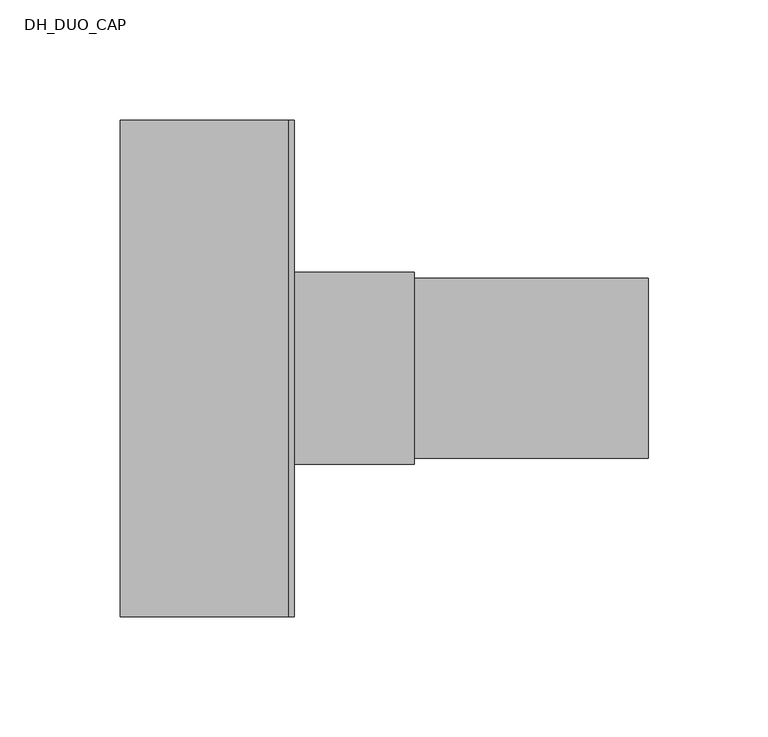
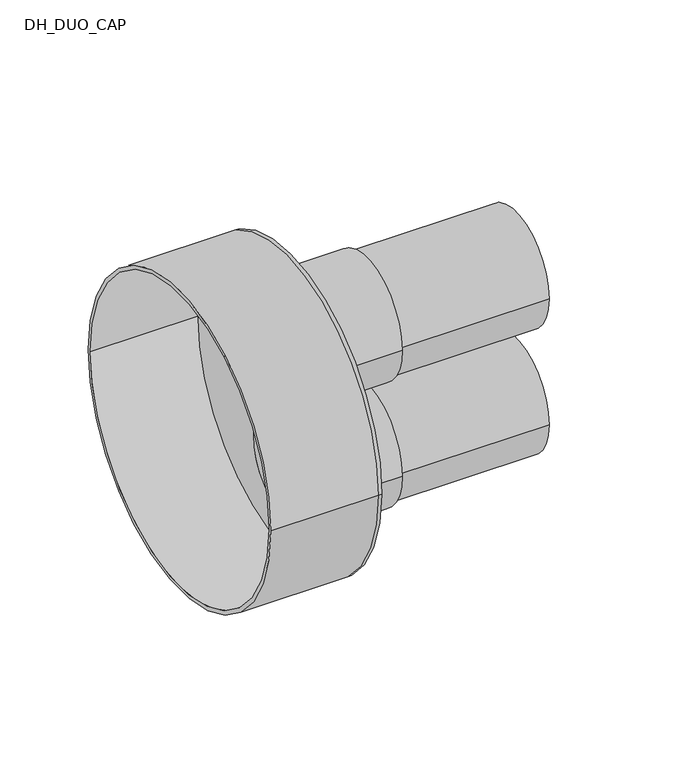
"""IFC4 building model written with IfcOpenShell, lengths in millimetres: pipe fitting geometry, DH_DUO_CAP : RAUTHERMEX DUO 11 Heating - Rubber Cap."""

from ifc_helpers import new_model, si_unit, point, frame, frame_2d, origin, place, context, project, spatial, polyline, circle_curve, trimmed, segment, composite_curve, outline, extrude, source, transform, mapped, element, save
from ifc_brep_helpers import plane_surface, cylinder_surface, revolved_surface, advanced_brep


def dh_duo_cap_d277d169(model_context):
    return source(origin(), model_context, "Body", "SolidModel", [
        extrude(outline(composite_curve([segment(trimmed(circle_curve(frame_2d((0.0, -43.5)), 37.5), [point((-37.5, -43.5))], [point((37.5, -43.5))], False, "CARTESIAN"), True, "CONTINUOUS"), segment(trimmed(circle_curve(frame_2d((0.0, -43.5)), 37.5), [point((37.5, -43.5))], [point((-37.5, -43.5))], False, "CARTESIAN"), True, "CONTINUOUS")], self_intersect=False), holes=[composite_curve([segment(trimmed(circle_curve(frame_2d((0.0, -43.5)), 30.7), [point((-30.7, -43.5))], [point((30.7, -43.5))], True, "CARTESIAN"), True, "CONTINUOUS"), segment(trimmed(circle_curve(frame_2d((0.0, -43.5)), 30.7), [point((30.7, -43.5))], [point((-30.7, -43.5))], True, "CARTESIAN"), True, "CONTINUOUS")], self_intersect=False)]), frame((0.0, 0.0, 0.0), z_axis=(1.0, 0.0, 0.0), x_axis=(0.0, 1.0, 0.0)), (0.0, 0.0, 1.0), 150.0),
        extrude(outline(composite_curve([segment(trimmed(circle_curve(frame_2d((0.0, 43.5)), 37.5), [point((-37.5, 43.5))], [point((37.5, 43.5))], False, "CARTESIAN"), True, "CONTINUOUS"), segment(trimmed(circle_curve(frame_2d((0.0, 43.5)), 37.5), [point((37.5, 43.5))], [point((-37.5, 43.5))], False, "CARTESIAN"), True, "CONTINUOUS")], self_intersect=False), holes=[composite_curve([segment(trimmed(circle_curve(frame_2d((0.0, 43.5)), 30.7), [point((-30.7, 43.5))], [point((30.7, 43.5))], True, "CARTESIAN"), True, "CONTINUOUS"), segment(trimmed(circle_curve(frame_2d((0.0, 43.5)), 30.7), [point((30.7, 43.5))], [point((-30.7, 43.5))], True, "CARTESIAN"), True, "CONTINUOUS")], self_intersect=False)]), frame((0.0, 0.0, 0.0), z_axis=(1.0, 0.0, 0.0), x_axis=(0.0, 1.0, 0.0)), (0.0, 0.0, 1.0), 150.0),
        advanced_brep(
        [(-70.0, -103.5, 0.0), (-70.0, 103.5, 0.0), (-70.0, -101.0, 0.0), (-70.0, 101.0, 0.0), (0.0, -101.0, 0.0), (0.0, 101.0, 0.0), (0.0, -103.5, 0.0), (0.0, 103.5, 0.0), (0.0, 37.5, 43.5), (0.0, -37.5, 43.5), (0.0, 37.5, -43.5), (0.0, -37.5, -43.5), (2.5, -103.5, 0.0), (2.5, 103.5, 0.0), (2.5, -37.5, 43.5), (2.5, 37.5, 43.5), (2.5, -37.5, -43.5), (2.5, 37.5, -43.5)],
        [
            (0, 1, circle_curve(frame((-70.0, 0.0, 0.0), z_axis=(-1.0, 0.0, 0.0), x_axis=(0.0, 1.0, 0.0)), 103.5)),
            (1, 0, circle_curve(frame((-70.0, 0.0, 0.0), z_axis=(-1.0, 0.0, 0.0), x_axis=(0.0, 1.0, 0.0)), 103.5)),
            (2, 3, circle_curve(frame((-70.0, 0.0, 0.0), z_axis=(1.0, 0.0, 0.0), x_axis=(0.0, 1.0, 0.0)), 101.0)),
            (3, 2, circle_curve(frame((-70.0, 0.0, 0.0), z_axis=(1.0, 0.0, 0.0), x_axis=(0.0, 1.0, 0.0)), 101.0)),
            (2, 4),
            (4, 5, circle_curve(frame((0.0, 0.0, 0.0), z_axis=(1.0, 0.0, 0.0), x_axis=(0.0, 1.0, 0.0)), 101.0)),
            (5, 3),
            (5, 4, circle_curve(frame((0.0, 0.0, 0.0), z_axis=(1.0, 0.0, 0.0), x_axis=(0.0, 1.0, 0.0)), 101.0)),
            (0, 6),
            (6, 7, circle_curve(frame((0.0, 0.0, 0.0), z_axis=(-1.0, 0.0, 0.0), x_axis=(0.0, 1.0, 0.0)), 103.5)),
            (7, 1),
            (7, 6, circle_curve(frame((0.0, 0.0, 0.0), z_axis=(-1.0, 0.0, 0.0), x_axis=(0.0, 1.0, 0.0)), 103.5)),
            (8, 9, circle_curve(frame((0.0, 0.0, 43.5), z_axis=(1.0, 0.0, 0.0), x_axis=(0.0, 1.0, 0.0)), 37.5)),
            (9, 8, circle_curve(frame((0.0, 0.0, 43.5), z_axis=(1.0, 0.0, 0.0), x_axis=(0.0, 1.0, 0.0)), 37.5)),
            (10, 11, circle_curve(frame((0.0, 0.0, -43.5), z_axis=(1.0, 0.0, 0.0), x_axis=(0.0, 1.0, 0.0)), 37.5)),
            (11, 10, circle_curve(frame((0.0, 0.0, -43.5), z_axis=(1.0, 0.0, 0.0), x_axis=(0.0, 1.0, 0.0)), 37.5)),
            (12, 13, circle_curve(frame((2.5, 0.0, 0.0), z_axis=(1.0, 0.0, 0.0), x_axis=(0.0, 1.0, 0.0)), 103.5)),
            (13, 12, circle_curve(frame((2.5, 0.0, 0.0), z_axis=(1.0, 0.0, 0.0), x_axis=(0.0, 1.0, 0.0)), 103.5)),
            (14, 15, circle_curve(frame((2.5, 0.0, 43.5), z_axis=(-1.0, 0.0, 0.0), x_axis=(0.0, 1.0, 0.0)), 37.5)),
            (15, 14, circle_curve(frame((2.5, 0.0, 43.5), z_axis=(-1.0, 0.0, 0.0), x_axis=(0.0, 1.0, 0.0)), 37.5)),
            (16, 17, circle_curve(frame((2.5, 0.0, -43.5), z_axis=(-1.0, 0.0, 0.0), x_axis=(0.0, 1.0, 0.0)), 37.5)),
            (17, 16, circle_curve(frame((2.5, 0.0, -43.5), z_axis=(-1.0, 0.0, 0.0), x_axis=(0.0, 1.0, 0.0)), 37.5)),
            (13, 7),
            (6, 12),
            (8, 15),
            (14, 9),
            (10, 17),
            (16, 11),
        ],
        [
            plane_surface(frame((-70.0, 0.0, 0.0), z_axis=(-1.0, 0.0, 0.0), x_axis=(0.0, 0.0, 1.0))),
            revolved_surface(polyline([(0.0, 101.0, 0.0), (-70.0, 101.0, 0.0)]), (-70.0, 0.0, 0.0), (1.0, 0.0, 0.0)),
            cylinder_surface(frame((-70.0, 0.0, 0.0), z_axis=(-1.0, 0.0, 0.0), x_axis=(0.0, 1.0, 0.0)), 103.5),
            plane_surface(frame((0.0, 0.0, 0.0), z_axis=(-1.0, 0.0, 0.0), x_axis=(0.0, 0.0, 1.0))),
            plane_surface(frame((2.5, 0.0, 0.0), z_axis=(1.0, 0.0, 0.0), x_axis=(0.0, 0.0, 1.0))),
            cylinder_surface(frame((0.0, 0.0, 0.0), z_axis=(-1.0, 0.0, 0.0), x_axis=(0.0, 1.0, 0.0)), 103.5),
            revolved_surface(polyline([(0.0, 37.5, 43.5), (2.5, 37.5, 43.5)]), (0.0, 0.0, 43.5), (-1.0, 0.0, 0.0)),
            revolved_surface(polyline([(0.0, 37.5, -43.5), (2.5, 37.5, -43.5)]), (0.0, 0.0, -43.5), (-1.0, 0.0, 0.0)),
        ],
        [
            (0, [[1, 2], [3, 4]]),
            (1, [[-3, 5, 6, 7]]),
            (1, [[-4, -7, 8, -5]]),
            (2, [[-1, 9, 10, 11]]),
            (2, [[-2, -11, 12, -9]]),
            (3, [[-6, -8], [13, 14], [15, 16]]),
            (4, [[17, 18], [19, 20], [21, 22]]),
            (5, [[-18, 23, -10, 24]]),
            (5, [[-17, -24, -12, -23]]),
            (6, [[25, -19, 26, -13]]),
            (6, [[-25, -14, -26, -20]]),
            (7, [[27, -21, 28, -15]]),
            (7, [[-27, -16, -28, -22]]),
        ],
    ),
        extrude(outline(composite_curve([segment(trimmed(circle_curve(frame_2d((0.0, -43.5)), 40.0), [point((-40.0, -43.5))], [point((40.0, -43.5))], False, "CARTESIAN"), True, "CONTINUOUS"), segment(trimmed(circle_curve(frame_2d((0.0, -43.5)), 40.0), [point((40.0, -43.5))], [point((-40.0, -43.5))], False, "CARTESIAN"), True, "CONTINUOUS")], self_intersect=False), holes=[composite_curve([segment(trimmed(circle_curve(frame_2d((0.0, -43.5)), 37.5), [point((-37.5, -43.5))], [point((37.5, -43.5))], True, "CARTESIAN"), True, "CONTINUOUS"), segment(trimmed(circle_curve(frame_2d((0.0, -43.5)), 37.5), [point((37.5, -43.5))], [point((-37.5, -43.5))], True, "CARTESIAN"), True, "CONTINUOUS")], self_intersect=False)]), frame((2.5, 0.0, 0.0), z_axis=(1.0, 0.0, 0.0), x_axis=(0.0, 1.0, 0.0)), (0.0, 0.0, 1.0), 50.0),
        extrude(outline(composite_curve([segment(trimmed(circle_curve(frame_2d((0.0, 43.5)), 40.0), [point((-40.0, 43.5))], [point((40.0, 43.5))], False, "CARTESIAN"), True, "CONTINUOUS"), segment(trimmed(circle_curve(frame_2d((0.0, 43.5)), 40.0), [point((40.0, 43.5))], [point((-40.0, 43.5))], False, "CARTESIAN"), True, "CONTINUOUS")], self_intersect=False), holes=[composite_curve([segment(trimmed(circle_curve(frame_2d((0.0, 43.5)), 37.5), [point((-37.5, 43.5))], [point((37.5, 43.5))], True, "CARTESIAN"), True, "CONTINUOUS"), segment(trimmed(circle_curve(frame_2d((0.0, 43.5)), 37.5), [point((37.5, 43.5))], [point((-37.5, 43.5))], True, "CARTESIAN"), True, "CONTINUOUS")], self_intersect=False)]), frame((2.5, 0.0, 0.0), z_axis=(1.0, 0.0, 0.0), x_axis=(0.0, 1.0, 0.0)), (0.0, 0.0, 1.0), 50.0),
    ])


if __name__ == "__main__":
    model = new_model("IFC4")
    model_context = context("Model", 3, world=origin())
    ifc_project = project(units=[si_unit("LENGTHUNIT", "METRE", prefix="MILLI")], contexts=[model_context])
    site = spatial("IfcSite", under=ifc_project)
    building = spatial("IfcBuilding", under=site)
    placement = place(None, origin())
    dh_duo_cap_shape = dh_duo_cap_d277d169(model_context)
    element("IfcPipeFitting", 1, ObjectType="DH_DUO_CAP : RAUTHERMEX DUO 11 Heating - Rubber Cap", at=placement, inside=building, context=model_context, shape_type="MappedRepresentation", body=[
        mapped(dh_duo_cap_shape, transform((0.0, 0.0, 0.0), x_axis=(1.0, 0.0, 0.0), y_axis=(0.0, 1.0, 0.0), z_axis=(0.0, 0.0, 1.0))),
    ])
    save(model, "model.ifc")
